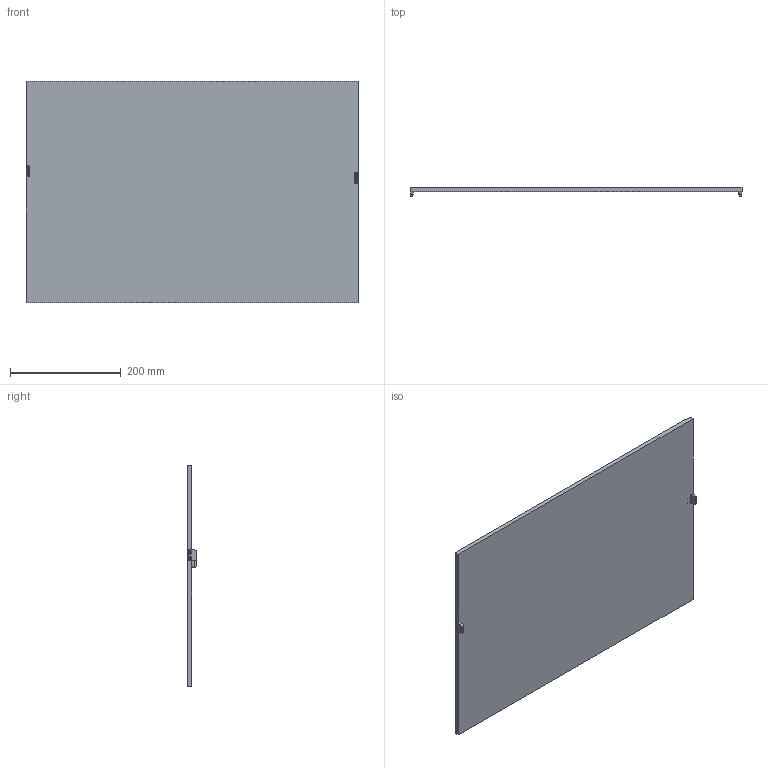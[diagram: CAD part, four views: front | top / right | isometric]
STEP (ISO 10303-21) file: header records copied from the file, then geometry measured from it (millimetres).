
FILE_DESCRIPTION (( 'STEP AP203' ), '1' );
FILE_NAME ('VT02403.STEP', '2016-10-24T10:51:43', ( '' ), ( '' ), 'SwSTEP 2.0', 'SolidWorks 2016', '' );
FILE_SCHEMA (( 'CONFIG_CONTROL_DESIGN' ));
Length unit declared in the file: millimetre
Products named in the file (4): 160179.0001.adapter plate VT02403; 160175.0001.positioning block; DIN 912 M03x06 St8.8-Zn_DIN 912 M3 x 6 --- 6C; VT02403
Assembly tree (7 placements, depth 2):
  VT02403
    160179.0001.adapter plate VT02403
    160175.0001.positioning block  x2
    DIN 912 M03x06 St8.8-Zn_DIN 912 M3 x 6 --- 6C  x4
Bounding box: 599.75 x 17.5 x 399.75 mm (x, y, z)
Volume: 1779070.7 mm3; surface area: 499719.7 mm2
Topology: 7 solids, 7 shells, 210 faces, 500 edges, 304 vertices
Faces by surface type: plane 120, cylinder 50, cone 24, torus 16
Entity records: 3544 total; most frequent: DIRECTION 538, CARTESIAN_POINT 536, ORIENTED_EDGE 500, EDGE_CURVE 250, LINE 180, VECTOR 180, AXIS2_PLACEMENT_3D 179, VERTEX_POINT 161
